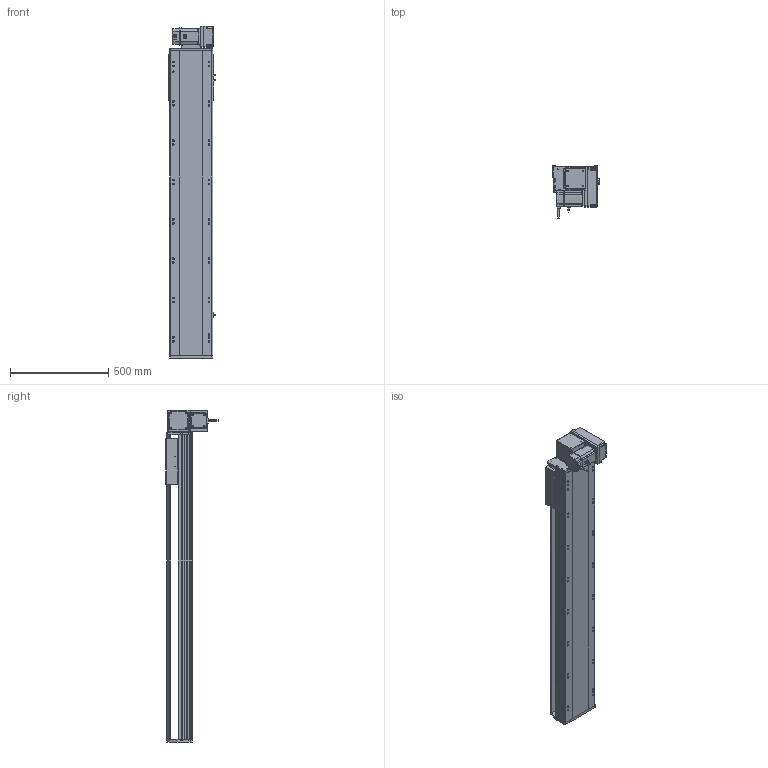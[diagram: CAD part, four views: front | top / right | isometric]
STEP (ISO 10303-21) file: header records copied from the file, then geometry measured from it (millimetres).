
FILE_DESCRIPTION (( 'STEP AP214' ), '1' );
FILE_NAME ('RTB22S-XX-1200-RM-M75-C4.STEP', '2025-12-12T07:48:07', ( '' ), ( '' ), 'SwSTEP 2.0', 'SolidWorks 2018', '' );
FILE_SCHEMA (( 'AUTOMOTIVE_DESIGN' ));
Length unit declared in the file: millimetre
Products named in the file (14): RTB22S-GY-001耜裔^RTB22S-XX-XX-RM-M75-C4; RTB22S-L-011菁釱^RTB22S-XX-XX-RM-M75-C4; RTB22S-GY-018P^RTB22S-RM-々湍釱蚾饜_RTB22S-XX-XX-RM-M75-C4; RTB22S-RM-々湍釱蚾饜^RTB22S-XX-XX-RM-M75-C4; RTB22S-GY-014--々湍釱^RTB22S-RM-々湍釱蚾饜_RTB22S-XX-XX-RM-M75-C4; RTB22S-GY-007奻裔^RTB22S-XX-XX-RM-M75-C4; RTB22S-GY-005P^RTB22S-RM-々湍釱蚾饜_RTB22S-XX-XX-RM-M75-C4; RTB22S-GY-008-M75--萇儂啣^RTB22S-RM-々湍釱蚾饜_RTB22S-XX-XX-RM-M75-C4; RTB22S-L-004賑釱^RTB22S-XX-XX-RM-M75-C4; RTB22S-GY-017P^RTB22S-RM-々湍釱蚾饜_RTB22S-XX-XX-RM-M75-C4; RTB22S-XX-1200-RM-M75-C4; OMRON EE-SX672 传感器^RTB22S-XX-XX-RM-M75-C4; RTH22-GY-013外置感应片^RTB22S-XX-XX-RM-M75-C4; 750W萇儂^RTB22S-XX-XX-RM-M75-C4
Assembly tree (16 placements, depth 3):
  RTB22S-XX-1200-RM-M75-C4
    RTB22S-L-011菁釱^RTB22S-XX-XX-RM-M75-C4
    RTB22S-GY-001耜裔^RTB22S-XX-XX-RM-M75-C4
    750W萇儂^RTB22S-XX-XX-RM-M75-C4
    RTB22S-GY-007奻裔^RTB22S-XX-XX-RM-M75-C4
    RTB22S-L-004賑釱^RTB22S-XX-XX-RM-M75-C4
    RTH22-GY-013外置感应片^RTB22S-XX-XX-RM-M75-C4
    OMRON EE-SX672 传感器^RTB22S-XX-XX-RM-M75-C4  x3
    RTB22S-RM-々湍釱蚾饜^RTB22S-XX-XX-RM-M75-C4
      RTB22S-GY-014--々湍釱^RTB22S-RM-々湍釱蚾饜_RTB22S-XX-XX-RM-M75-C4
      RTB22S-GY-017P^RTB22S-RM-々湍釱蚾饜_RTB22S-XX-XX-RM-M75-C4  x2
      RTB22S-GY-005P^RTB22S-RM-々湍釱蚾饜_RTB22S-XX-XX-RM-M75-C4
      RTB22S-GY-008-M75--萇儂啣^RTB22S-RM-々湍釱蚾饜_RTB22S-XX-XX-RM-M75-C4
      RTB22S-GY-018P^RTB22S-RM-々湍釱蚾饜_RTB22S-XX-XX-RM-M75-C4
Bounding box: 238.5 x 264.7 x 1687.5 mm (x, y, z)
Volume: 23623074.3 mm3; surface area: 2448119.5 mm2
Topology: 15 solids, 15 shells, 1983 faces, 5386 edges, 3452 vertices
Faces by surface type: plane 915, cylinder 622, bspline 296, cone 138, sphere 8, torus 4
Entity records: 52768 total; most frequent: CARTESIAN_POINT 15172, ORIENTED_EDGE 7560, DIRECTION 7274, EDGE_CURVE 3780, AXIS2_PLACEMENT_3D 2566, VERTEX_POINT 2456, LINE 2142, VECTOR 2142
